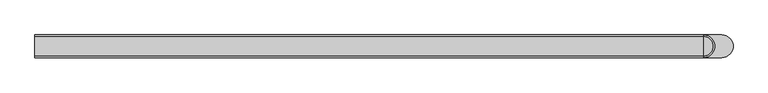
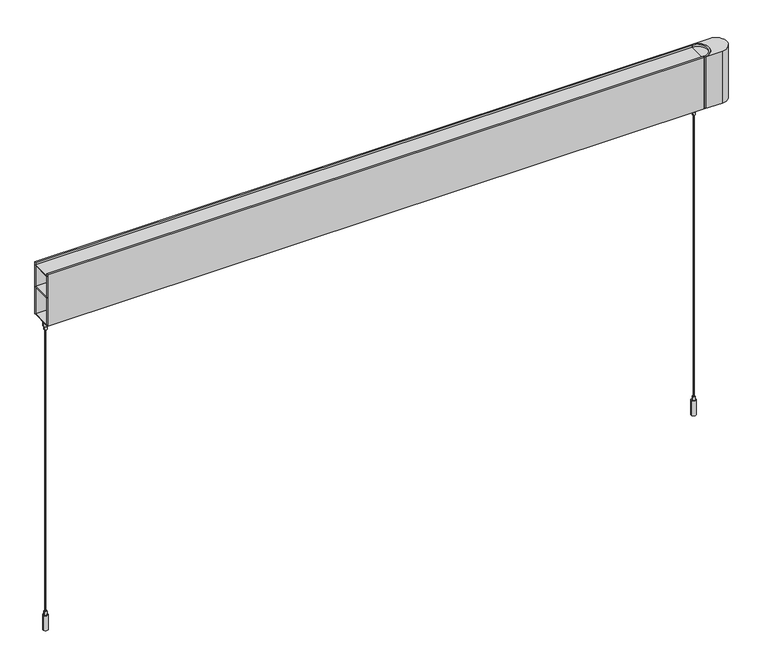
"""IFC4 building model written with IfcOpenShell, lengths in millimetres: light fixture geometry, Lighting-Pendant-Betacalco-Block-Straight : BLKP-DT1-PW01-TR01-SL04-EP01-LP020-CR80-CTA40."""

from ifc_helpers import new_model, si_unit, point, frame, frame_2d, origin, place, context, project, spatial, polyline, circle_curve, trimmed, segment, composite_curve, outline, extrude, source, transform, mapped, element, save
from ifc_brep_helpers import plane_surface, cylinder_surface, revolved_surface, advanced_brep


def light_fixture_ec65e80f(model_context):
    return source(origin(), model_context, "Body", "SolidModel", [
        extrude(outline(composite_curve([segment(polyline([(609.6, -20.6375), (609.6, -18.0975)]), True, "CONTINUOUS"), segment(trimmed(circle_curve(frame_2d((609.6, 0.0)), 18.0975), [point((609.6, -18.0975))], [point((609.6, 18.0975))], True, "CARTESIAN"), True, "CONTINUOUS"), segment(polyline([(609.6, 18.0975), (609.6, 20.6375)]), True, "CONTINUOUS"), segment(trimmed(circle_curve(frame_2d((609.6, 0.0)), 20.6375), [point((609.6, 20.6375))], [point((609.6, -20.6375))], False, "CARTESIAN"), True, "CONTINUOUS")], self_intersect=False)), frame((0.0, 0.0, 611.1875), z_axis=(0.0, 0.0, 1.0), x_axis=(1.0, 0.0, 0.0)), (0.0, 0.0, 1.0), 100.0125),
        extrude(outline(composite_curve([segment(polyline([(609.6, -18.0975), (609.6, 18.0975)]), True, "CONTINUOUS"), segment(trimmed(circle_curve(frame_2d((609.6, 0.0)), 18.0975), [point((609.6, 18.0975))], [point((609.6, -18.0975))], False, "CARTESIAN"), True, "CONTINUOUS")], self_intersect=False)), frame((0.0, 0.0, 705.9095588), z_axis=(0.0, 0.0, 1.0), x_axis=(1.0, 0.0, 0.0)), (0.0, 0.0, 1.0), 1.5875),
        advanced_brep(
        [(609.6, 20.6375, 611.1875), (609.6, -20.6375, 611.1875), (609.6, -20.6375, 609.6), (609.6, 20.6375, 609.6), (642.9375, 20.6375, 609.6), (642.9375, -20.6375, 609.6), (609.6, 20.6375, 711.2), (609.6, -20.6375, 711.2), (642.9375, -20.6375, 711.2), (642.9375, 20.6375, 711.2)],
        [
            (0, 1),
            (1, 0, circle_curve(frame((609.6, 0.0, 611.1875), z_axis=(0.0, 0.0, 1.0), x_axis=(1.0, 0.0, 0.0)), 20.6375)),
            (2, 3),
            (3, 4),
            (4, 5, circle_curve(frame((642.9375, 0.0, 609.6), z_axis=(0.0, 0.0, -1.0), x_axis=(1.0, 0.0, 0.0)), 20.6375)),
            (5, 2),
            (0, 3),
            (2, 1),
            (6, 7, circle_curve(frame((609.6, 0.0, 711.2), z_axis=(0.0, 0.0, -1.0), x_axis=(1.0, 0.0, 0.0)), 20.6375)),
            (7, 8),
            (8, 9, circle_curve(frame((642.9375, 0.0, 711.2), z_axis=(0.0, 0.0, 1.0), x_axis=(1.0, 0.0, 0.0)), 20.6375)),
            (9, 6),
            (6, 0),
            (1, 7),
            (5, 8),
            (4, 9),
        ],
        [
            plane_surface(frame((630.2375, 0.0, 611.1875), z_axis=(0.0, 0.0, 1.0), x_axis=(0.0, 1.0, 0.0))),
            plane_surface(frame((630.2375, 0.0, 609.6), z_axis=(0.0, 0.0, -1.0), x_axis=(0.0, -1.0, 0.0))),
            plane_surface(frame((609.6, 20.6375, 611.1875), z_axis=(-1.0, 0.0, 0.0), x_axis=(0.0, 0.0, -1.0))),
            plane_surface(frame((630.2375, 0.0, 711.2), z_axis=(0.0, 0.0, 1.0), x_axis=(0.0, -1.0, 0.0))),
            revolved_surface(polyline([(630.2375000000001, 0.0, 611.1875), (630.2375000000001, 0.0, 711.2)]), (609.6, 0.0, 609.6), (0.0, 0.0, -1.0)),
            plane_surface(frame((609.6, -20.6375, 711.2), z_axis=(0.0, -1.0, 0.0), x_axis=(0.0, 0.0, -1.0))),
            cylinder_surface(frame((642.9375, 0.0, 609.6), z_axis=(0.0, 0.0, 1.0), x_axis=(1.0, 0.0, 0.0)), 20.6375),
            plane_surface(frame((642.9375, 20.6375, 711.2), z_axis=(0.0, 1.0, 0.0), x_axis=(0.0, 0.0, -1.0))),
        ],
        [
            (0, [[1, 2]]),
            (1, [[3, 4, 5, 6]]),
            (2, [[-1, 7, -3, 8]]),
            (3, [[9, 10, 11, 12]]),
            (4, [[-9, 13, -2, 14]]),
            (5, [[-10, -14, -8, -6, 15]]),
            (6, [[-11, -15, -5, 16]]),
            (7, [[-12, -16, -4, -7, -13]]),
        ],
    ),
        advanced_brep(
        [(606.4250015, 0.0, 0.0), (597.5349985, 0.0, 0.0), (597.5349985, 0.0, 28.4480024), (606.4250015, 0.0, 28.4480024), (599.4400002, 0.0, 28.4480024), (604.5199998, 0.0, 28.4480024), (599.4400002, 0.0, 35.4330037), (604.5199998, 0.0, 35.4330037), (601.98, 0.0, 35.4330037), (601.98, 0.0, 0.0)],
        [
            (0, 1, circle_curve(frame((601.98, 0.0, 0.0), z_axis=(0.0, 0.0, 1.0), x_axis=(-1.0, 0.0, 0.0)), 4.4450015)),
            (1, 2),
            (2, 3, circle_curve(frame((601.98, 0.0, 28.4480024), z_axis=(0.0, 0.0, -1.0), x_axis=(-1.0, 0.0, 0.0)), 4.4450015)),
            (3, 0),
            (1, 0, circle_curve(frame((601.98, 0.0, 0.0), z_axis=(0.0, 0.0, 1.0), x_axis=(-1.0, 0.0, 0.0)), 4.4450015)),
            (3, 2, circle_curve(frame((601.98, 0.0, 28.4480024), z_axis=(0.0, 0.0, -1.0), x_axis=(-1.0, 0.0, 0.0)), 4.4450015)),
            (2, 4),
            (4, 5, circle_curve(frame((601.98, 0.0, 28.4480024), z_axis=(0.0, 0.0, -1.0), x_axis=(-1.0, 0.0, 0.0)), 2.5399998)),
            (5, 3),
            (5, 4, circle_curve(frame((601.98, 0.0, 28.4480024), z_axis=(0.0, 0.0, -1.0), x_axis=(-1.0, 0.0, 0.0)), 2.5399998)),
            (4, 6),
            (6, 7, circle_curve(frame((601.98, 0.0, 35.4330037), z_axis=(0.0, 0.0, -1.0), x_axis=(-1.0, 0.0, 0.0)), 2.5399998)),
            (7, 5),
            (7, 6, circle_curve(frame((601.98, 0.0, 35.4330037), z_axis=(0.0, 0.0, -1.0), x_axis=(-1.0, 0.0, 0.0)), 2.5399998)),
            (6, 8),
            (8, 7),
            (9, 1),
            (0, 9),
        ],
        [
            cylinder_surface(frame((601.98, 0.0, 2366.7150031), z_axis=(0.0, 0.0, -1.0), x_axis=(-1.0, 0.0, 0.0)), 4.4450015),
            plane_surface(frame((601.98, 0.0, 28.4480024), z_axis=(0.0, 0.0, 1.0), x_axis=(-1.0, 0.0, 0.0))),
            cylinder_surface(frame((601.98, 0.0, 2366.7150031), z_axis=(0.0, 0.0, -1.0), x_axis=(-1.0, 0.0, 0.0)), 2.5399998),
            plane_surface(frame((601.98, 0.0, 35.4330037), z_axis=(0.0, 0.0, 1.0), x_axis=(-1.0, 0.0, 0.0))),
            plane_surface(frame((601.98, 0.0, 0.0), z_axis=(0.0, 0.0, -1.0), x_axis=(-1.0, 0.0, 0.0))),
        ],
        [
            (0, [[1, 2, 3, 4]]),
            (0, [[5, -4, 6, -2]]),
            (1, [[-3, 7, 8, 9]]),
            (1, [[-6, -9, 10, -7]]),
            (2, [[-8, 11, 12, 13]]),
            (2, [[-10, -13, 14, -11]]),
            (3, [[-12, 15, 16]]),
            (3, [[-14, -16, -15]]),
            (4, [[17, -1, 18]]),
            (4, [[-18, -5, -17]]),
        ],
    ),
        advanced_brep(
        [(602.7737476, 0.0, 35.4330037), (601.1862524, 0.0, 35.4330037), (601.1862524, 0.0, 589.2774601), (602.7737476, 0.0, 589.2774601), (601.98, 0.0, 35.4330037), (601.98, 0.0, 589.2774601)],
        [
            (0, 1, circle_curve(frame((601.98, 0.0, 35.4330037), z_axis=(0.0, 0.0, 1.0), x_axis=(-1.0, 0.0, 0.0)), 0.7937476)),
            (1, 2),
            (2, 3, circle_curve(frame((601.98, 0.0, 589.2774601), z_axis=(0.0, 0.0, -1.0), x_axis=(-1.0, 0.0, 0.0)), 0.7937476)),
            (3, 0),
            (1, 0, circle_curve(frame((601.98, 0.0, 35.4330037), z_axis=(0.0, 0.0, 1.0), x_axis=(-1.0, 0.0, 0.0)), 0.7937476)),
            (3, 2, circle_curve(frame((601.98, 0.0, 589.2774601), z_axis=(0.0, 0.0, -1.0), x_axis=(-1.0, 0.0, 0.0)), 0.7937476)),
            (4, 1),
            (0, 4),
            (2, 5),
            (5, 3),
        ],
        [
            cylinder_surface(frame((601.98, 0.0, 2366.7150031), z_axis=(0.0, 0.0, -1.0), x_axis=(-1.0, 0.0, 0.0)), 0.7937476),
            plane_surface(frame((601.98, 0.0, 35.4330037), z_axis=(0.0, 0.0, -1.0), x_axis=(-1.0, 0.0, 0.0))),
            plane_surface(frame((601.98, 0.0, 589.2774601), z_axis=(0.0, 0.0, 1.0), x_axis=(-1.0, 0.0, 0.0))),
        ],
        [
            (0, [[1, 2, 3, 4]]),
            (0, [[5, -4, 6, -2]]),
            (1, [[7, -1, 8]]),
            (1, [[-8, -5, -7]]),
            (2, [[-3, 9, 10]]),
            (2, [[-6, -10, -9]]),
        ],
    ),
        advanced_brep(
        [(606.4250015, 0.0, 596.2624614), (597.5349985, 0.0, 596.2624614), (597.5349985, 0.0, 609.6), (606.4250015, 0.0, 609.6), (604.5199998, 0.0, 596.2624614), (599.4400002, 0.0, 596.2624614), (604.5199998, 0.0, 589.2774601), (599.4400002, 0.0, 589.2774601), (601.98, 0.0, 589.2774601), (601.98, 0.0, 609.6)],
        [
            (0, 1, circle_curve(frame((601.98, 0.0, 596.2624614), z_axis=(0.0, 0.0, 1.0), x_axis=(-1.0, 0.0, 0.0)), 4.4450015)),
            (1, 2),
            (2, 3, circle_curve(frame((601.98, 0.0, 609.6), z_axis=(0.0, 0.0, -1.0), x_axis=(-1.0, 0.0, 0.0)), 4.4450015)),
            (3, 0),
            (1, 0, circle_curve(frame((601.98, 0.0, 596.2624614), z_axis=(0.0, 0.0, 1.0), x_axis=(-1.0, 0.0, 0.0)), 4.4450015)),
            (3, 2, circle_curve(frame((601.98, 0.0, 609.6), z_axis=(0.0, 0.0, -1.0), x_axis=(-1.0, 0.0, 0.0)), 4.4450015)),
            (4, 5, circle_curve(frame((601.98, 0.0, 596.2624614), z_axis=(0.0, 0.0, 1.0), x_axis=(-1.0, 0.0, 0.0)), 2.5399998)),
            (5, 1),
            (0, 4),
            (5, 4, circle_curve(frame((601.98, 0.0, 596.2624614), z_axis=(0.0, 0.0, 1.0), x_axis=(-1.0, 0.0, 0.0)), 2.5399998)),
            (6, 7, circle_curve(frame((601.98, 0.0, 589.2774601), z_axis=(0.0, 0.0, 1.0), x_axis=(-1.0, 0.0, 0.0)), 2.5399998)),
            (7, 5),
            (4, 6),
            (7, 6, circle_curve(frame((601.98, 0.0, 589.2774601), z_axis=(0.0, 0.0, 1.0), x_axis=(-1.0, 0.0, 0.0)), 2.5399998)),
            (8, 7),
            (6, 8),
            (2, 9),
            (9, 3),
        ],
        [
            cylinder_surface(frame((601.98, 0.0, 2366.7150031), z_axis=(0.0, 0.0, -1.0), x_axis=(-1.0, 0.0, 0.0)), 4.4450015),
            plane_surface(frame((601.98, 0.0, 596.2624614), z_axis=(0.0, 0.0, -1.0), x_axis=(-1.0, 0.0, 0.0))),
            cylinder_surface(frame((601.98, 0.0, 2366.7150031), z_axis=(0.0, 0.0, -1.0), x_axis=(-1.0, 0.0, 0.0)), 2.5399998),
            plane_surface(frame((601.98, 0.0, 589.2774601), z_axis=(0.0, 0.0, -1.0), x_axis=(-1.0, 0.0, 0.0))),
            plane_surface(frame((601.98, 0.0, 609.6), z_axis=(0.0, 0.0, 1.0), x_axis=(-1.0, 0.0, 0.0))),
        ],
        [
            (0, [[1, 2, 3, 4]]),
            (0, [[5, -4, 6, -2]]),
            (1, [[7, 8, -1, 9]]),
            (1, [[10, -9, -5, -8]]),
            (2, [[11, 12, -7, 13]]),
            (2, [[14, -13, -10, -12]]),
            (3, [[15, -11, 16]]),
            (3, [[-16, -14, -15]]),
            (4, [[-3, 17, 18]]),
            (4, [[-6, -18, -17]]),
        ],
    ),
        advanced_brep(
        [(-597.5349985, 0.0, 0.0), (-606.4250015, 0.0, 0.0), (-606.4250015, 0.0, 28.4480024), (-597.5349985, 0.0, 28.4480024), (-604.5199998, 0.0, 28.4480024), (-599.4400002, 0.0, 28.4480024), (-604.5199998, 0.0, 35.4330037), (-599.4400002, 0.0, 35.4330037), (-601.98, 0.0, 35.4330037), (-601.98, 0.0, 0.0)],
        [
            (0, 1, circle_curve(frame((-601.98, 0.0, 0.0), z_axis=(0.0, 0.0, 1.0), x_axis=(-1.0, 0.0, 0.0)), 4.4450015)),
            (1, 2),
            (2, 3, circle_curve(frame((-601.98, 0.0, 28.4480024), z_axis=(0.0, 0.0, -1.0), x_axis=(-1.0, 0.0, 0.0)), 4.4450015)),
            (3, 0),
            (1, 0, circle_curve(frame((-601.98, 0.0, 0.0), z_axis=(0.0, 0.0, 1.0), x_axis=(-1.0, 0.0, 0.0)), 4.4450015)),
            (3, 2, circle_curve(frame((-601.98, 0.0, 28.4480024), z_axis=(0.0, 0.0, -1.0), x_axis=(-1.0, 0.0, 0.0)), 4.4450015)),
            (2, 4),
            (4, 5, circle_curve(frame((-601.98, 0.0, 28.4480024), z_axis=(0.0, 0.0, -1.0), x_axis=(-1.0, 0.0, 0.0)), 2.5399998)),
            (5, 3),
            (5, 4, circle_curve(frame((-601.98, 0.0, 28.4480024), z_axis=(0.0, 0.0, -1.0), x_axis=(-1.0, 0.0, 0.0)), 2.5399998)),
            (4, 6),
            (6, 7, circle_curve(frame((-601.98, 0.0, 35.4330037), z_axis=(0.0, 0.0, -1.0), x_axis=(-1.0, 0.0, 0.0)), 2.5399998)),
            (7, 5),
            (7, 6, circle_curve(frame((-601.98, 0.0, 35.4330037), z_axis=(0.0, 0.0, -1.0), x_axis=(-1.0, 0.0, 0.0)), 2.5399998)),
            (6, 8),
            (8, 7),
            (9, 1),
            (0, 9),
        ],
        [
            cylinder_surface(frame((-601.98, 0.0, 2366.7150031), z_axis=(0.0, 0.0, -1.0), x_axis=(-1.0, 0.0, 0.0)), 4.4450015),
            plane_surface(frame((-601.98, 0.0, 28.4480024), z_axis=(0.0, 0.0, 1.0), x_axis=(-1.0, 0.0, 0.0))),
            cylinder_surface(frame((-601.98, 0.0, 2366.7150031), z_axis=(0.0, 0.0, -1.0), x_axis=(-1.0, 0.0, 0.0)), 2.5399998),
            plane_surface(frame((-601.98, 0.0, 35.4330037), z_axis=(0.0, 0.0, 1.0), x_axis=(-1.0, 0.0, 0.0))),
            plane_surface(frame((-601.98, 0.0, 0.0), z_axis=(0.0, 0.0, -1.0), x_axis=(-1.0, 0.0, 0.0))),
        ],
        [
            (0, [[1, 2, 3, 4]]),
            (0, [[5, -4, 6, -2]]),
            (1, [[-3, 7, 8, 9]]),
            (1, [[-6, -9, 10, -7]]),
            (2, [[-8, 11, 12, 13]]),
            (2, [[-10, -13, 14, -11]]),
            (3, [[-12, 15, 16]]),
            (3, [[-14, -16, -15]]),
            (4, [[17, -1, 18]]),
            (4, [[-18, -5, -17]]),
        ],
    ),
        advanced_brep(
        [(-601.1862524, 0.0, 35.4330037), (-602.7737476, 0.0, 35.4330037), (-602.7737476, 0.0, 589.2774601), (-601.1862524, 0.0, 589.2774601), (-601.98, 0.0, 35.4330037), (-601.98, 0.0, 589.2774601)],
        [
            (0, 1, circle_curve(frame((-601.98, 0.0, 35.4330037), z_axis=(0.0, 0.0, 1.0), x_axis=(-1.0, 0.0, 0.0)), 0.7937476)),
            (1, 2),
            (2, 3, circle_curve(frame((-601.98, 0.0, 589.2774601), z_axis=(0.0, 0.0, -1.0), x_axis=(-1.0, 0.0, 0.0)), 0.7937476)),
            (3, 0),
            (1, 0, circle_curve(frame((-601.98, 0.0, 35.4330037), z_axis=(0.0, 0.0, 1.0), x_axis=(-1.0, 0.0, 0.0)), 0.7937476)),
            (3, 2, circle_curve(frame((-601.98, 0.0, 589.2774601), z_axis=(0.0, 0.0, -1.0), x_axis=(-1.0, 0.0, 0.0)), 0.7937476)),
            (4, 1),
            (0, 4),
            (2, 5),
            (5, 3),
        ],
        [
            cylinder_surface(frame((-601.98, 0.0, 2366.7150031), z_axis=(0.0, 0.0, -1.0), x_axis=(-1.0, 0.0, 0.0)), 0.7937476),
            plane_surface(frame((-601.98, 0.0, 35.4330037), z_axis=(0.0, 0.0, -1.0), x_axis=(-1.0, 0.0, 0.0))),
            plane_surface(frame((-601.98, 0.0, 589.2774601), z_axis=(0.0, 0.0, 1.0), x_axis=(-1.0, 0.0, 0.0))),
        ],
        [
            (0, [[1, 2, 3, 4]]),
            (0, [[5, -4, 6, -2]]),
            (1, [[7, -1, 8]]),
            (1, [[-8, -5, -7]]),
            (2, [[-3, 9, 10]]),
            (2, [[-6, -10, -9]]),
        ],
    ),
        advanced_brep(
        [(-597.5349985, 0.0, 596.2624614), (-606.4250015, 0.0, 596.2624614), (-606.4250015, 0.0, 609.6), (-597.5349985, 0.0, 609.6), (-599.4400002, 0.0, 596.2624614), (-604.5199998, 0.0, 596.2624614), (-599.4400002, 0.0, 589.2774601), (-604.5199998, 0.0, 589.2774601), (-601.98, 0.0, 589.2774601), (-601.98, 0.0, 609.6)],
        [
            (0, 1, circle_curve(frame((-601.98, 0.0, 596.2624614), z_axis=(0.0, 0.0, 1.0), x_axis=(-1.0, 0.0, 0.0)), 4.4450015)),
            (1, 2),
            (2, 3, circle_curve(frame((-601.98, 0.0, 609.6), z_axis=(0.0, 0.0, -1.0), x_axis=(-1.0, 0.0, 0.0)), 4.4450015)),
            (3, 0),
            (1, 0, circle_curve(frame((-601.98, 0.0, 596.2624614), z_axis=(0.0, 0.0, 1.0), x_axis=(-1.0, 0.0, 0.0)), 4.4450015)),
            (3, 2, circle_curve(frame((-601.98, 0.0, 609.6), z_axis=(0.0, 0.0, -1.0), x_axis=(-1.0, 0.0, 0.0)), 4.4450015)),
            (4, 5, circle_curve(frame((-601.98, 0.0, 596.2624614), z_axis=(0.0, 0.0, 1.0), x_axis=(-1.0, 0.0, 0.0)), 2.5399998)),
            (5, 1),
            (0, 4),
            (5, 4, circle_curve(frame((-601.98, 0.0, 596.2624614), z_axis=(0.0, 0.0, 1.0), x_axis=(-1.0, 0.0, 0.0)), 2.5399998)),
            (6, 7, circle_curve(frame((-601.98, 0.0, 589.2774601), z_axis=(0.0, 0.0, 1.0), x_axis=(-1.0, 0.0, 0.0)), 2.5399998)),
            (7, 5),
            (4, 6),
            (7, 6, circle_curve(frame((-601.98, 0.0, 589.2774601), z_axis=(0.0, 0.0, 1.0), x_axis=(-1.0, 0.0, 0.0)), 2.5399998)),
            (8, 7),
            (6, 8),
            (2, 9),
            (9, 3),
        ],
        [
            cylinder_surface(frame((-601.98, 0.0, 2366.7150031), z_axis=(0.0, 0.0, -1.0), x_axis=(-1.0, 0.0, 0.0)), 4.4450015),
            plane_surface(frame((-601.98, 0.0, 596.2624614), z_axis=(0.0, 0.0, -1.0), x_axis=(-1.0, 0.0, 0.0))),
            cylinder_surface(frame((-601.98, 0.0, 2366.7150031), z_axis=(0.0, 0.0, -1.0), x_axis=(-1.0, 0.0, 0.0)), 2.5399998),
            plane_surface(frame((-601.98, 0.0, 589.2774601), z_axis=(0.0, 0.0, -1.0), x_axis=(-1.0, 0.0, 0.0))),
            plane_surface(frame((-601.98, 0.0, 609.6), z_axis=(0.0, 0.0, 1.0), x_axis=(-1.0, 0.0, 0.0))),
        ],
        [
            (0, [[1, 2, 3, 4]]),
            (0, [[5, -4, 6, -2]]),
            (1, [[7, 8, -1, 9]]),
            (1, [[10, -9, -5, -8]]),
            (2, [[11, 12, -7, 13]]),
            (2, [[14, -13, -10, -12]]),
            (3, [[15, -11, 16]]),
            (3, [[-16, -14, -15]]),
            (4, [[-3, 17, 18]]),
            (4, [[-6, -18, -17]]),
        ],
    ),
        extrude(outline(polyline([(609.6, 18.0975), (609.6, -18.0975), (-609.6, -18.0975), (-609.6, 18.0975), (609.6, 18.0975)])), frame((0.0, 0.0, 705.9095588), z_axis=(0.0, 0.0, 1.0), x_axis=(1.0, 0.0, 0.0)), (0.0, 0.0, 1.0), 1.5875),
        extrude(outline(polyline([(609.6, 18.0975), (609.6, -18.0975), (-609.6, -18.0975), (-609.6, 18.0975), (609.6, 18.0975)])), frame((0.0, 0.0, 663.287913), z_axis=(0.0, 0.0, 1.0), x_axis=(1.0, 0.0, 0.0)), (0.0, 0.0, 1.0), 1.5875),
        extrude(outline(polyline([(609.6, 18.0975), (609.6, -18.0975), (-609.6, -18.0975), (-609.6, 18.0975), (609.6, 18.0975)])), frame((0.0, 0.0, 609.6), z_axis=(0.0, 0.0, 1.0), x_axis=(1.0, 0.0, 0.0)), (0.0, 0.0, 1.0), 1.5875),
        extrude(outline(polyline([(609.6, 20.6375), (609.6, 18.0975), (-609.6, 18.0975), (-609.6, 20.6375), (609.6, 20.6375)])), frame((0.0, 0.0, 609.6), z_axis=(0.0, 0.0, 1.0), x_axis=(1.0, 0.0, 0.0)), (0.0, 0.0, 1.0), 101.6),
        extrude(outline(polyline([(609.6, -18.0975), (609.6, -20.6375), (-609.6, -20.6375), (-609.6, -18.0975), (609.6, -18.0975)])), frame((0.0, 0.0, 609.6), z_axis=(0.0, 0.0, 1.0), x_axis=(1.0, 0.0, 0.0)), (0.0, 0.0, 1.0), 101.6),
    ])


if __name__ == "__main__":
    model = new_model("IFC4")
    model_context = context("Model", 3, world=origin())
    ifc_project = project(units=[si_unit("LENGTHUNIT", "METRE", prefix="MILLI")], contexts=[model_context])
    site = spatial("IfcSite", under=ifc_project)
    building = spatial("IfcBuilding", under=site)
    placement = place(None, origin())
    light_fixture_shape = light_fixture_ec65e80f(model_context)
    element("IfcLightFixture", 1, ObjectType="Lighting-Pendant-Betacalco-Block-Straight : BLKP-DT1-PW01-TR01-SL04-EP01-LP020-CR80-CTA40", at=placement, inside=building, context=model_context, shape_type="MappedRepresentation", body=[
        mapped(light_fixture_shape, transform((0.0, 0.0, 0.0), x_axis=(1.0, 0.0, 0.0), y_axis=(0.0, 1.0, 0.0), z_axis=(0.0, 0.0, 1.0))),
    ])
    save(model, "model.ifc")
